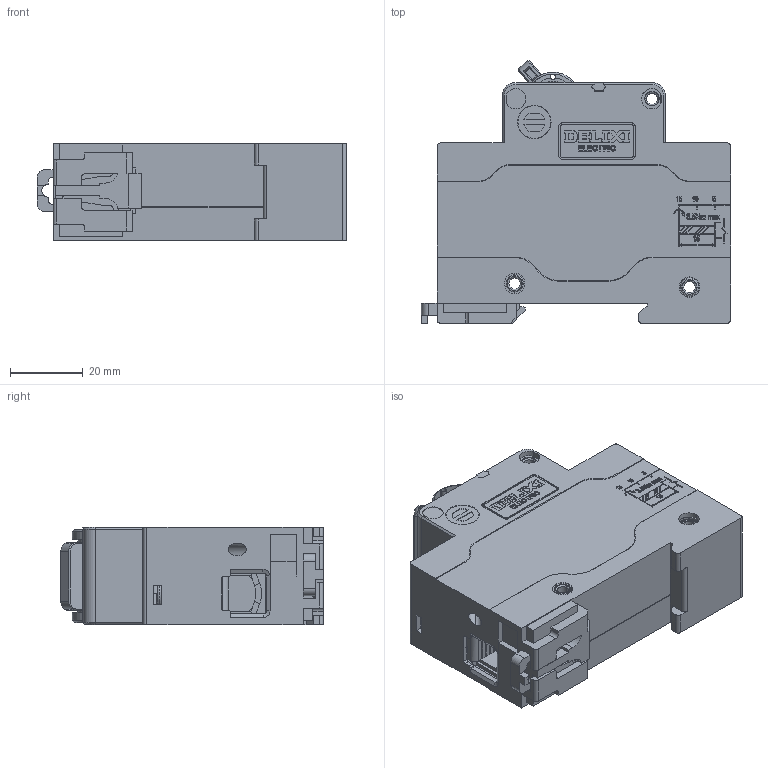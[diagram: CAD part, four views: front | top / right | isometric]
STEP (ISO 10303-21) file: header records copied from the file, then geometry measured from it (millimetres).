
FILE_DESCRIPTION((''),'2;1');
FILE_NAME('2250005500_ASM_SW0002','2019-07-17T',('xiao.wang'),(''),'PRO/ENGINEER BY PARAMETRIC TECHNOLOGY CORPORATION, 2015440','PRO/ENGINEER BY PARAMETRIC TECHNOLOGY CORPORATION, 2015440','');
FILE_SCHEMA(('CONFIG_CONTROL_DESIGN'));
Products named in the file (1): 2250005500_ASM_SW0002
Bounding box: 84.9 x 72.09 x 26.8 mm (x, y, z)
Volume: 105125.5 mm3; surface area: 36079.2 mm2
Topology: 1 solids, 1 shells, 2580 faces, 7241 edges, 4763 vertices
Faces by surface type: plane 1800, cylinder 351, extrusion 338, torus 49, cone 32, sphere 6, bspline 4
Entity records: 84916 total; most frequent: CARTESIAN_POINT 18841, ORIENTED_EDGE 14470, DIRECTION 12277, EDGE_CURVE 7235, VECTOR 5849, LINE 5511, VERTEX_POINT 4763, AXIS2_PLACEMENT_3D 3214
